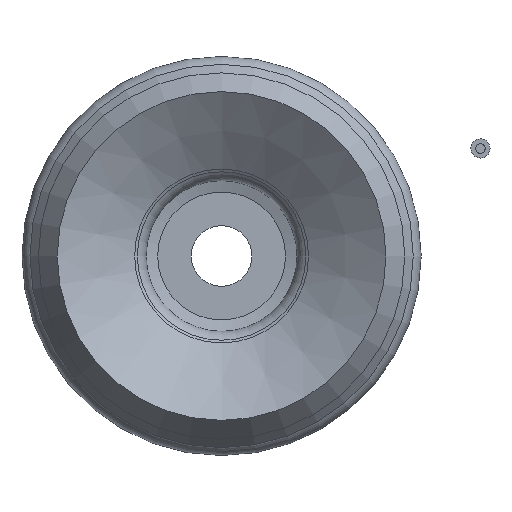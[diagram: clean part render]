
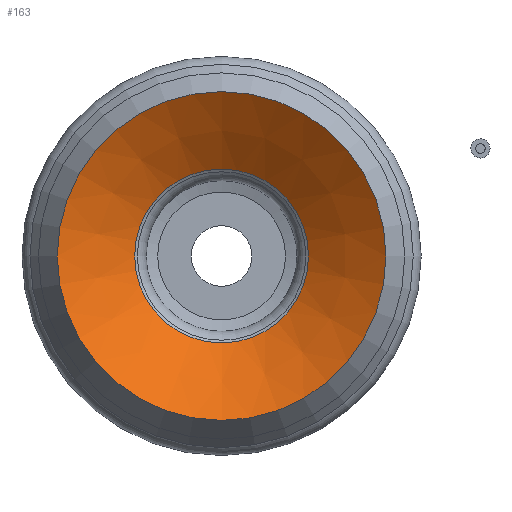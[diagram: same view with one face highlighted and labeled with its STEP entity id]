
A CAD part, front view. The second image highlights one B-rep face of the part: STEP entity #163.
In plain terms, the highlighted conical face has half-angle 53.953 degrees and reference radius 5.442 mm.
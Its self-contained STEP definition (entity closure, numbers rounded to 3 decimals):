
#163=ADVANCED_FACE('',(#296,#297),#298,.F.);
#296=FACE_OUTER_BOUND('',#405,.T.);
#297=FACE_BOUND('',#406,.T.);
#298=CONICAL_SURFACE('',#407,5.442,0.942);
#405=EDGE_LOOP('',(#544));
#406=EDGE_LOOP('',(#545));
#407=AXIS2_PLACEMENT_3D('',#546,#547,#548);
#544=ORIENTED_EDGE('',*,*,#606,.T.);
#545=ORIENTED_EDGE('',*,*,#607,.F.);
#546=CARTESIAN_POINT('',(0.,-21.086,0.));
#547=DIRECTION('',(0.,-1.0,0.));
#548=DIRECTION('',(0.0,0.,-1.0));
#606=EDGE_CURVE('',#674,#674,#675,.T.);
#607=EDGE_CURVE('',#676,#676,#677,.T.);
#674=VERTEX_POINT('',#744);
#675=CIRCLE('',#745,10.294);
#676=VERTEX_POINT('',#746);
#677=CIRCLE('',#747,5.442);
#744=CARTESIAN_POINT('',(0.,-24.617,-10.294));
#745=AXIS2_PLACEMENT_3D('',#813,#814,#815);
#746=CARTESIAN_POINT('',(0.,-21.086,-5.442));
#747=AXIS2_PLACEMENT_3D('',#816,#817,#818);
#813=CARTESIAN_POINT('',(0.,-24.617,0.));
#814=DIRECTION('',(0.,-1.0,0.));
#815=DIRECTION('',(0.0,0.,-1.0));
#816=CARTESIAN_POINT('',(0.,-21.086,0.));
#817=DIRECTION('',(0.,-1.0,0.));
#818=DIRECTION('',(0.0,0.,-1.0));
